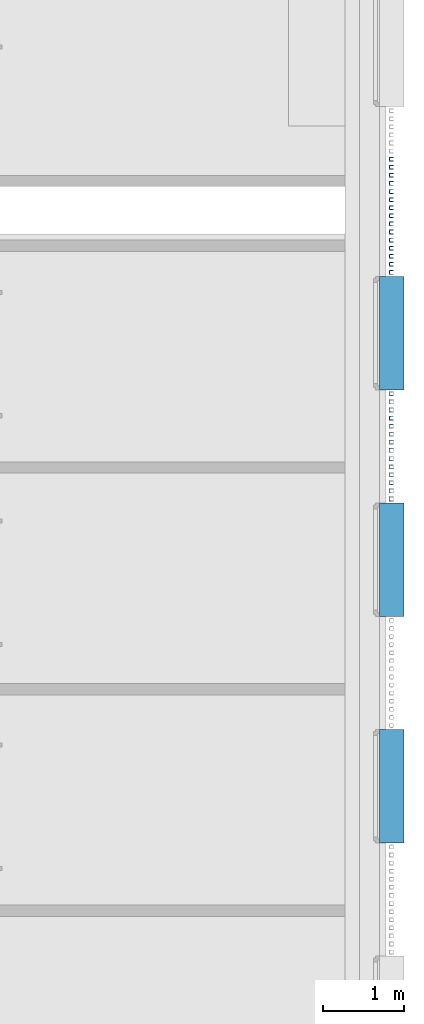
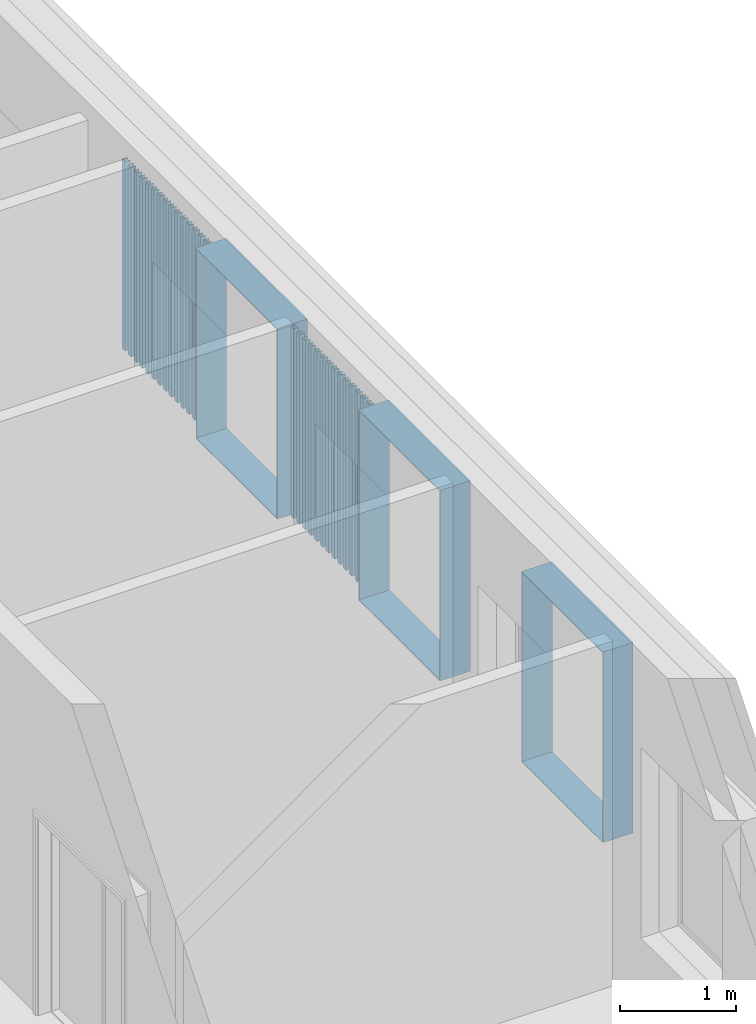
# One storey, part 47 of 100: 32 discrete accessories.
"""IFC2X3 building model written with IfcOpenShell, lengths in millimetres."""

from ifc_helpers import new_model, entity, si_unit, converted_unit, derived_unit, money_unit, direction, frame, origin_with_axes, place, context, subcontext, project, spatial, faceted_brep, source, transform, mapped, material, type_object, element, save


model = new_model("IFC2X3")

# Units and contexts
model_context = context("Model", 3, precision=0.01, world=origin_with_axes(), true_north=direction((0.0, 1.0)))
body_context = subcontext(model_context, "Body", "Model", "MODEL_VIEW")
ifc_project = project(units=[si_unit("LENGTHUNIT", "METRE", prefix="MILLI"), si_unit("AREAUNIT", "SQUARE_METRE"), si_unit("VOLUMEUNIT", "CUBIC_METRE"), converted_unit("PLANEANGLEUNIT", "DEGREE", entity("IfcPlaneAngleMeasure", 0.0174532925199), si_unit("PLANEANGLEUNIT", "RADIAN"), dimensions=[0, 0, 0, 0, 0, 0, 0]), si_unit("SOLIDANGLEUNIT", "STERADIAN"), money_unit("EUR"), converted_unit("TIMEUNIT", "Year", entity("IfcTimeMeasure", 31556926.0), si_unit("TIMEUNIT", "SECOND"), dimensions=[0, 0, 1, 0, 0, 0, 0]), si_unit("MASSUNIT", "GRAM", prefix="KILO"), si_unit("THERMODYNAMICTEMPERATUREUNIT", "DEGREE_CELSIUS"), si_unit("LUMINOUSINTENSITYUNIT", "LUMEN"), si_unit("ENERGYUNIT", "JOULE", prefix="MEGA"), derived_unit("THERMALCONDUCTANCEUNIT", [(si_unit("POWERUNIT", "WATT"), 1), (si_unit("LENGTHUNIT", "METRE"), -1), (si_unit("THERMODYNAMICTEMPERATUREUNIT", "KELVIN"), -1)]), derived_unit("SPECIFICHEATCAPACITYUNIT", [(si_unit("ENERGYUNIT", "JOULE"), 1), (si_unit("MASSUNIT", "GRAM", prefix="KILO"), -1), (si_unit("THERMODYNAMICTEMPERATUREUNIT", "KELVIN"), -1)]), derived_unit("MASSDENSITYUNIT", [(si_unit("MASSUNIT", "GRAM", prefix="KILO"), 1), (si_unit("VOLUMEUNIT", "CUBIC_METRE"), -1)])], contexts=[model_context])

# Site, building, storey
site_placement = place(None, origin_with_axes())
site = spatial("IfcSite", under=ifc_project, at=site_placement, Name="Politse- ja Piirivalveameti ning Päästeameti ühishoone", CompositionType="ELEMENT")
building_placement = place(site_placement, origin_with_axes())
building = spatial("IfcBuilding", under=site, at=building_placement, Name="Politse- ja Piirivalveameti ning Päästeameti ühishoone", CompositionType="ELEMENT")
storey_placement = place(building_placement, frame((0.0, 0.0, 3800.0), z_axis=(0.0, 0.0, 1.0), x_axis=(1.0, 0.0, 0.0)))
storey = spatial("IfcBuildingStorey", under=building, at=storey_placement, Name="Teine korrus", CompositionType="ELEMENT", Elevation=3800.0)

# Discrete accessories
ifc_material_1 = material(Name="SV-01_Krohv - Kips")
discrete_accessory_type_1 = type_object("IfcDiscreteAccessoryType", Name="Architrave 01 23")
shared_shape_1 = source(origin_with_axes(), body_context, "Body", "Brep", [
    faceted_brep([(-700.0, 0.0, -10.0), (700.0, 0.0, -10.0), (700.0, -300.182356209, -10.0), (-700.0, -300.182356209, -10.0), (-690.0, 0.0, 0.0), (690.0, 0.0, 0.0), (690.0, -300.182356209, 0.0), (-690.0, -300.182356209, 0.0)], [[[0, 1, 2, 3]], [[0, 4, 5, 1]], [[1, 5, 6, 2]], [[3, 2, 6, 7]], [[4, 0, 3, 7]], [[5, 4, 7, 6]]]),
    faceted_brep([(700.0, 0.0, -10.0), (700.0, 0.0, 1990.0), (700.0, -300.182356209, 1990.0), (700.0, -300.182356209, -10.0), (690.0, 0.0, 0.0), (690.0, 0.0, 1980.0), (690.0, -300.182356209, 1980.0), (690.0, -300.182356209, 0.0)], [[[0, 1, 2, 3]], [[0, 4, 5, 1]], [[1, 5, 6, 2]], [[3, 2, 6, 7]], [[4, 0, 3, 7]], [[5, 4, 7, 6]]]),
    faceted_brep([(700.0, 0.0, 1990.0), (-700.0, 0.0, 1990.0), (-700.0, -300.182356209, 1990.0), (700.0, -300.182356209, 1990.0), (690.0, 0.0, 1980.0), (-690.0, 0.0, 1980.0), (-690.0, -300.182356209, 1980.0), (690.0, -300.182356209, 1980.0)], [[[0, 1, 2, 3]], [[0, 4, 5, 1]], [[1, 5, 6, 2]], [[3, 2, 6, 7]], [[4, 0, 3, 7]], [[5, 4, 7, 6]]]),
    faceted_brep([(-700.0, 0.0, 1990.0), (-700.0, 0.0, -10.0), (-700.0, -300.182356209, -10.0), (-700.0, -300.182356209, 1990.0), (-690.0, 0.0, 1980.0), (-690.0, 0.0, 0.0), (-690.0, -300.182356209, 0.0), (-690.0, -300.182356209, 1980.0)], [[[0, 1, 2, 3]], [[0, 4, 5, 1]], [[1, 5, 6, 2]], [[3, 2, 6, 7]], [[4, 0, 3, 7]], [[5, 4, 7, 6]]]),
])
for number, where, z_axis, x_axis, name in (
    (1, (70090.5664257, 23400.0702441, 810.0), (0.0, 0.0, 1.0), (0.0, 1.0, 0.0), "AKNARAAM 01"),
    (2, (70090.5664257, 26200.0702441, 810.0), (0.0, 0.0, 1.0), (0.0, 1.0, 0.0), "AKNARAAM 01"),
    (3, (70090.5664257, 29000.0702441, 810.0), (0.0, 0.0, 1.0), (0.0, 1.0, 0.0), "AKNARAAM 01"),
):
    element("IfcDiscreteAccessory", number, at=place(storey_placement, frame(where, z_axis=z_axis, x_axis=x_axis)), inside=storey, type_object=discrete_accessory_type_1, material=ifc_material_1, Name=name, context=body_context, shape_type="MappedRepresentation", body=[
        mapped(shared_shape_1, transform((0.0, 0.0, 0.0))),
    ])
ifc_material_2 = material(Name="ET-05_Teras")
discrete_accessory_type_2 = type_object("IfcDiscreteAccessoryType", Name="UAP Column 23")
shared_shape_2 = source(origin_with_axes(), body_context, "Body", "Brep", [
    faceted_brep([(25.0, -25.0, 0.0), (25.0, -20.0, 0.0), (25.0, -20.0, 1990.0), (25.0, -25.0, 1990.0), (-25.0, -25.0, 0.0), (-25.0, 25.0, 0.0), (25.0, 25.0, 0.0), (25.0, 20.0, 0.0), (-8.5, 20.0, 0.0), (-14.25, 18.4592921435, 0.0), (-18.4592921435, 14.25, 0.0), (-20.0, 8.5, 0.0), (-20.0, -8.5, 0.0), (-18.4592921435, -14.25, 0.0), (-14.25, -18.4592921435, 0.0), (-8.5, -20.0, 0.0), (-8.5, -20.0, 1990.0), (-14.25, -18.4592921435, 1990.0), (-18.4592921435, -14.25, 1990.0), (-20.0, -8.5, 1990.0), (-20.0, 8.5, 1990.0), (-18.4592921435, 14.25, 1990.0), (-14.25, 18.4592921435, 1990.0), (-8.5, 20.0, 1990.0), (25.0, 20.0, 1990.0), (25.0, 25.0, 1990.0), (-25.0, 25.0, 1990.0), (-25.0, -25.0, 1990.0)], [[[0, 1, 2, 3]], [[0, 4, 5, 6, 7, 8, 9, 10, 11, 12, 13, 14, 15, 1]], [[1, 15, 16, 2]], [[3, 2, 16, 17, 18, 19, 20, 21, 22, 23, 24, 25, 26, 27]], [[4, 0, 3, 27]], [[5, 4, 27, 26]], [[6, 5, 26, 25]], [[7, 6, 25, 24]], [[8, 7, 24, 23]], [[9, 8, 23, 22]], [[10, 9, 22, 21]], [[11, 10, 21, 20]], [[12, 11, 20, 19]], [[13, 12, 19, 18]], [[14, 13, 18, 17]], [[15, 14, 17, 16]]]),
])
for number, where, z_axis, x_axis in (
    (4, (70235.2095212, 29750.0702441, 810.000049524), (0.0, 0.0, 1.0), (1.0, 0.0, 0.0)),
    (5, (70235.2095212, 29850.0702441, 810.000049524), (0.0, 0.0, 1.0), (1.0, 0.0, 0.0)),
    (6, (70235.2095212, 29950.0702441, 810.000049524), (0.0, 0.0, 1.0), (1.0, 0.0, 0.0)),
    (7, (70235.2095212, 30050.0702441, 810.000049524), (0.0, 0.0, 1.0), (1.0, 0.0, 0.0)),
    (8, (70235.2095212, 30150.0702441, 810.000049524), (0.0, 0.0, 1.0), (1.0, 0.0, 0.0)),
    (9, (70235.2095212, 30250.0702441, 810.000049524), (0.0, 0.0, 1.0), (1.0, 0.0, 0.0)),
    (10, (70235.2095212, 30350.0702441, 810.000049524), (0.0, 0.0, 1.0), (1.0, 0.0, 0.0)),
    (11, (70235.2095212, 30450.0702441, 810.000049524), (0.0, 0.0, 1.0), (1.0, 0.0, 0.0)),
    (12, (70235.2095212, 30550.0702441, 810.000049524), (0.0, 0.0, 1.0), (1.0, 0.0, 0.0)),
    (13, (70235.2095212, 30650.0702441, 810.000049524), (0.0, 0.0, 1.0), (1.0, 0.0, 0.0)),
    (14, (70235.2095212, 30750.0702441, 810.000049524), (0.0, 0.0, 1.0), (1.0, 0.0, 0.0)),
    (15, (70235.2095212, 30850.0702441, 810.000049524), (0.0, 0.0, 1.0), (1.0, 0.0, 0.0)),
    (16, (70235.2095212, 30950.0702441, 810.000049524), (0.0, 0.0, 1.0), (1.0, 0.0, 0.0)),
    (17, (70235.2095212, 31050.0702441, 810.000049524), (0.0, 0.0, 1.0), (1.0, 0.0, 0.0)),
    (18, (70235.2095212, 31150.0702441, 810.000049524), (0.0, 0.0, 1.0), (1.0, 0.0, 0.0)),
    (19, (70235.2095212, 28250.0702441, 810.000049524), (0.0, 0.0, 1.0), (1.0, 0.0, 0.0)),
    (20, (70235.2095212, 28150.0702441, 810.000049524), (0.0, 0.0, 1.0), (1.0, 0.0, 0.0)),
    (21, (70235.2095212, 28050.0702441, 810.000049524), (0.0, 0.0, 1.0), (1.0, 0.0, 0.0)),
    (22, (70235.2095212, 27950.0702441, 810.000049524), (0.0, 0.0, 1.0), (1.0, 0.0, 0.0)),
    (23, (70235.2095212, 27850.0702441, 810.000049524), (0.0, 0.0, 1.0), (1.0, 0.0, 0.0)),
    (24, (70235.2095212, 27750.0702441, 810.000049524), (0.0, 0.0, 1.0), (1.0, 0.0, 0.0)),
    (25, (70235.2095212, 27650.0702441, 810.000049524), (0.0, 0.0, 1.0), (1.0, 0.0, 0.0)),
    (26, (70235.2095212, 27550.0702441, 810.000049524), (0.0, 0.0, 1.0), (1.0, 0.0, 0.0)),
    (27, (70235.2095212, 27450.0702441, 810.000049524), (0.0, 0.0, 1.0), (1.0, 0.0, 0.0)),
    (28, (70235.2095212, 27350.0702441, 810.000049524), (0.0, 0.0, 1.0), (1.0, 0.0, 0.0)),
    (29, (70235.2095212, 27250.0702441, 810.000049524), (0.0, 0.0, 1.0), (1.0, 0.0, 0.0)),
    (30, (70235.2095212, 27150.0702441, 810.000049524), (0.0, 0.0, 1.0), (1.0, 0.0, 0.0)),
    (31, (70235.2095212, 27050.0702441, 810.000049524), (0.0, 0.0, 1.0), (1.0, 0.0, 0.0)),
    (32, (70235.2095212, 26950.0702441, 810.000049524), (0.0, 0.0, 1.0), (1.0, 0.0, 0.0)),
):
    element("IfcDiscreteAccessory", number, at=place(storey_placement, frame(where, z_axis=z_axis, x_axis=x_axis)), inside=storey, type_object=discrete_accessory_type_2, material=ifc_material_2, Name="Fassaadiribid", context=body_context, shape_type="MappedRepresentation", body=[
        mapped(shared_shape_2, transform((0.0, 0.0, 0.0))),
    ])

save(model, "model.ifc")
